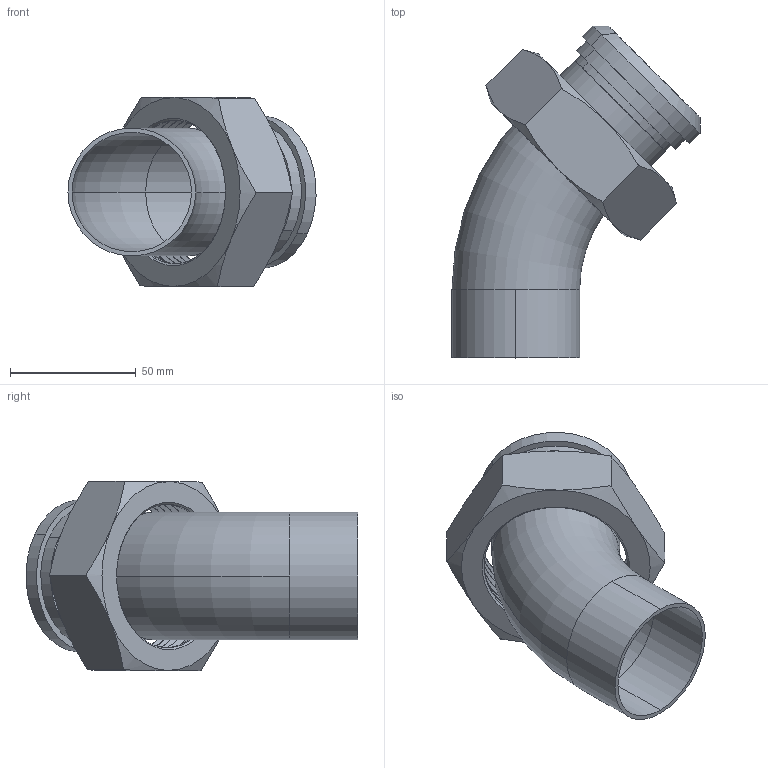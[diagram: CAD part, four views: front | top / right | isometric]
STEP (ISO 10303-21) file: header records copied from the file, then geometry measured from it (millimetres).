
FILE_DESCRIPTION (( 'STEP AP203' ), '1' );
FILE_NAME ('E2KP2.0.STEP', '2018-04-30T15:52:03', ( 'vneprd' ), ( 'Microsoft' ), 'SwSTEP 2.0', 'SolidWorks 2014', '' );
FILE_SCHEMA (( 'CONFIG_CONTROL_DESIGN' ));
Length unit declared in the file: inch
Products named in the file (1): E2KP2.0
Bounding box: 98.69 x 132.02 x 75.53 mm (x, y, z)
Volume: 85989.9 mm3; surface area: 63995.7 mm2
Topology: 3 solids, 3 shells, 88 faces, 215 edges, 136 vertices
Faces by surface type: cylinder 31, plane 29, cone 20, torus 4, bspline 4
Entity records: 5868 total; most frequent: CARTESIAN_POINT 3799, ORIENTED_EDGE 430, DIRECTION 406, EDGE_CURVE 215, AXIS2_PLACEMENT_3D 167, VERTEX_POINT 136, EDGE_LOOP 97, FACE_OUTER_BOUND 88
